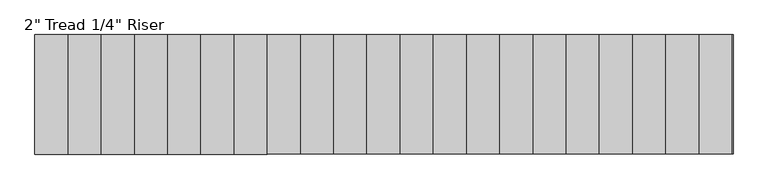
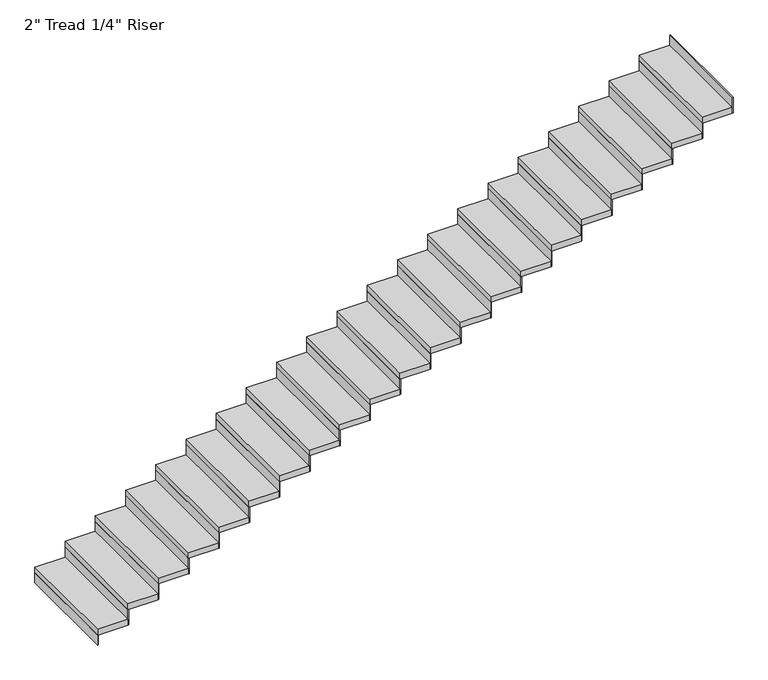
"""IFC4 building model written with IfcOpenShell, lengths in millimetres: stair flight geometry."""

from ifc_helpers import new_model, si_unit, frame, origin, origin_with_axes, place, context, project, spatial, polyline, outline, extrude, source, transform, mapped, element, save


def stair_flight_2dc6aed0(model_context):
    return source(origin(), model_context, "Body", "SweptSolid", [
        extrude(outline(polyline([(-14491.9069957, -68793.8034511), (-14498.2569957, -68793.8034511), (-14498.2569957, -67879.4034511), (-14491.9069957, -67879.4034511), (-14491.9069957, -68793.8034511)])), origin_with_axes(), (0.0, 0.0, 1.0), 87.7454545),
        extrude(outline(polyline([(-14244.2569957, -67879.4034511), (-14244.2569957, -68793.8034511), (-14498.2569957, -68793.8034511), (-14498.2569957, -67879.4034511), (-14244.2569957, -67879.4034511)])), frame((0.0, 0.0, 87.7454545), z_axis=(0.0, 0.0, 1.0), x_axis=(1.0, 0.0, 0.0)), (0.0, 0.0, 1.0), 50.8),
        extrude(outline(polyline([(-14237.9069957, -68793.8034511), (-14244.2569957, -68793.8034511), (-14244.2569957, -67879.4034511), (-14237.9069957, -67879.4034511), (-14237.9069957, -68793.8034511)])), frame((0.0, 0.0, 87.7454545), z_axis=(0.0, 0.0, 1.0), x_axis=(1.0, 0.0, 0.0)), (0.0, 0.0, 1.0), 138.5454545),
        extrude(outline(polyline([(-13990.2569957, -67879.4034511), (-13990.2569957, -68793.8034511), (-14244.2569957, -68793.8034511), (-14244.2569957, -67879.4034511), (-13990.2569957, -67879.4034511)])), frame((0.0, 0.0, 226.2909091), z_axis=(0.0, 0.0, 1.0), x_axis=(1.0, 0.0, 0.0)), (0.0, 0.0, 1.0), 50.8),
        extrude(outline(polyline([(-13983.9069957, -68793.8034511), (-13990.2569957, -68793.8034511), (-13990.2569957, -67879.4034511), (-13983.9069957, -67879.4034511), (-13983.9069957, -68793.8034511)])), frame((0.0, 0.0, 226.2909091), z_axis=(0.0, 0.0, 1.0), x_axis=(1.0, 0.0, 0.0)), (0.0, 0.0, 1.0), 138.5454545),
        extrude(outline(polyline([(-13736.2569957, -67879.4034511), (-13736.2569957, -68793.8034511), (-13990.2569957, -68793.8034511), (-13990.2569957, -67879.4034511), (-13736.2569957, -67879.4034511)])), frame((0.0, 0.0, 364.8363636), z_axis=(0.0, 0.0, 1.0), x_axis=(1.0, 0.0, 0.0)), (0.0, 0.0, 1.0), 50.8),
        extrude(outline(polyline([(-13729.9069957, -68793.8034511), (-13736.2569957, -68793.8034511), (-13736.2569957, -67879.4034511), (-13729.9069957, -67879.4034511), (-13729.9069957, -68793.8034511)])), frame((0.0, 0.0, 364.8363636), z_axis=(0.0, 0.0, 1.0), x_axis=(1.0, 0.0, 0.0)), (0.0, 0.0, 1.0), 138.5454545),
        extrude(outline(polyline([(-13482.2569957, -67879.4034511), (-13482.2569957, -68793.8034511), (-13736.2569957, -68793.8034511), (-13736.2569957, -67879.4034511), (-13482.2569957, -67879.4034511)])), frame((0.0, 0.0, 503.3818182), z_axis=(0.0, 0.0, 1.0), x_axis=(1.0, 0.0, 0.0)), (0.0, 0.0, 1.0), 50.8),
        extrude(outline(polyline([(-13475.9069957, -68793.8034511), (-13482.2569957, -68793.8034511), (-13482.2569957, -67879.4034511), (-13475.9069957, -67879.4034511), (-13475.9069957, -68793.8034511)])), frame((0.0, 0.0, 503.3818182), z_axis=(0.0, 0.0, 1.0), x_axis=(1.0, 0.0, 0.0)), (0.0, 0.0, 1.0), 138.5454545),
        extrude(outline(polyline([(-13228.2569957, -67879.4034511), (-13228.2569957, -68793.8034511), (-13482.2569957, -68793.8034511), (-13482.2569957, -67879.4034511), (-13228.2569957, -67879.4034511)])), frame((0.0, 0.0, 641.9272727), z_axis=(0.0, 0.0, 1.0), x_axis=(1.0, 0.0, 0.0)), (0.0, 0.0, 1.0), 50.8),
        extrude(outline(polyline([(-13221.9069957, -68793.8034511), (-13228.2569957, -68793.8034511), (-13228.2569957, -67879.4034511), (-13221.9069957, -67879.4034511), (-13221.9069957, -68793.8034511)])), frame((0.0, 0.0, 641.9272727), z_axis=(0.0, 0.0, 1.0), x_axis=(1.0, 0.0, 0.0)), (0.0, 0.0, 1.0), 138.5454545),
        extrude(outline(polyline([(-12974.2569957, -67879.4034511), (-12974.2569957, -68793.8034511), (-13228.2569957, -68793.8034511), (-13228.2569957, -67879.4034511), (-12974.2569957, -67879.4034511)])), frame((0.0, 0.0, 780.4727273), z_axis=(0.0, 0.0, 1.0), x_axis=(1.0, 0.0, 0.0)), (0.0, 0.0, 1.0), 50.8),
        extrude(outline(polyline([(-12967.9069957, -68793.8034511), (-12974.2569957, -68793.8034511), (-12974.2569957, -67879.4034511), (-12967.9069957, -67879.4034511), (-12967.9069957, -68793.8034511)])), frame((0.0, 0.0, 780.4727273), z_axis=(0.0, 0.0, 1.0), x_axis=(1.0, 0.0, 0.0)), (0.0, 0.0, 1.0), 138.5454545),
        extrude(outline(polyline([(-12720.2569957, -67879.4034511), (-12720.2569957, -68793.8034511), (-12974.2569957, -68793.8034511), (-12974.2569957, -67879.4034511), (-12720.2569957, -67879.4034511)])), frame((0.0, 0.0, 919.0181818), z_axis=(0.0, 0.0, 1.0), x_axis=(1.0, 0.0, 0.0)), (0.0, 0.0, 1.0), 50.8),
        extrude(outline(polyline([(-12713.9069957, -68793.8034511), (-12720.2569957, -68793.8034511), (-12720.2569957, -67879.4034511), (-12713.9069957, -67879.4034511), (-12713.9069957, -68793.8034511)])), frame((0.0, 0.0, 919.0181818), z_axis=(0.0, 0.0, 1.0), x_axis=(1.0, 0.0, 0.0)), (0.0, 0.0, 1.0), 138.5454545),
        extrude(outline(polyline([(-12466.2569957, -67879.4034511), (-12466.2569957, -68793.8034511), (-12720.2569957, -68793.8034511), (-12720.2569957, -67879.4034511), (-12466.2569957, -67879.4034511)])), frame((0.0, 0.0, 1057.5636364), z_axis=(0.0, 0.0, 1.0), x_axis=(1.0, 0.0, 0.0)), (0.0, 0.0, 1.0), 50.8),
        extrude(outline(polyline([(-12459.9069957, -68793.8034511), (-12466.2569957, -68793.8034511), (-12466.2569957, -67879.4034511), (-12459.9069957, -67879.4034511), (-12459.9069957, -68793.8034511)])), frame((0.0, 0.0, 1057.5636364), z_axis=(0.0, 0.0, 1.0), x_axis=(1.0, 0.0, 0.0)), (0.0, 0.0, 1.0), 138.5454545),
        extrude(outline(polyline([(-12212.2569957, -67879.4034511), (-12212.2569957, -68793.8034511), (-12466.2569957, -68793.8034511), (-12466.2569957, -67879.4034511), (-12212.2569957, -67879.4034511)])), frame((0.0, 0.0, 1196.1090909), z_axis=(0.0, 0.0, 1.0), x_axis=(1.0, 0.0, 0.0)), (0.0, 0.0, 1.0), 50.8),
        extrude(outline(polyline([(-12205.9069957, -68793.8034511), (-12212.2569957, -68793.8034511), (-12212.2569957, -67879.4034511), (-12205.9069957, -67879.4034511), (-12205.9069957, -68793.8034511)])), frame((0.0, 0.0, 1196.1090909), z_axis=(0.0, 0.0, 1.0), x_axis=(1.0, 0.0, 0.0)), (0.0, 0.0, 1.0), 138.5454545),
        extrude(outline(polyline([(-11958.2569957, -67879.4034511), (-11958.2569957, -68793.8034511), (-12212.2569957, -68793.8034511), (-12212.2569957, -67879.4034511), (-11958.2569957, -67879.4034511)])), frame((0.0, 0.0, 1334.6545455), z_axis=(0.0, 0.0, 1.0), x_axis=(1.0, 0.0, 0.0)), (0.0, 0.0, 1.0), 50.8),
        extrude(outline(polyline([(-11951.9069957, -68793.8034511), (-11958.2569957, -68793.8034511), (-11958.2569957, -67879.4034511), (-11951.9069957, -67879.4034511), (-11951.9069957, -68793.8034511)])), frame((0.0, 0.0, 1334.6545455), z_axis=(0.0, 0.0, 1.0), x_axis=(1.0, 0.0, 0.0)), (0.0, 0.0, 1.0), 138.5454545),
        extrude(outline(polyline([(-11704.2569957, -67879.4034511), (-11704.2569957, -68793.8034511), (-11958.2569957, -68793.8034511), (-11958.2569957, -67879.4034511), (-11704.2569957, -67879.4034511)])), frame((0.0, 0.0, 1473.2), z_axis=(0.0, 0.0, 1.0), x_axis=(1.0, 0.0, 0.0)), (0.0, 0.0, 1.0), 50.8),
        extrude(outline(polyline([(-11697.9069957, -68793.8034511), (-11704.2569957, -68793.8034511), (-11704.2569957, -67879.4034511), (-11697.9069957, -67879.4034511), (-11697.9069957, -68793.8034511)])), frame((0.0, 0.0, 1473.2), z_axis=(0.0, 0.0, 1.0), x_axis=(1.0, 0.0, 0.0)), (0.0, 0.0, 1.0), 138.5454545),
        extrude(outline(polyline([(-11450.2569957, -67879.4034511), (-11450.2569957, -68793.8034511), (-11704.2569957, -68793.8034511), (-11704.2569957, -67879.4034511), (-11450.2569957, -67879.4034511)])), frame((0.0, 0.0, 1611.7454545), z_axis=(0.0, 0.0, 1.0), x_axis=(1.0, 0.0, 0.0)), (0.0, 0.0, 1.0), 50.8),
        extrude(outline(polyline([(-11443.9069957, -68793.8034511), (-11450.2569957, -68793.8034511), (-11450.2569957, -67879.4034511), (-11443.9069957, -67879.4034511), (-11443.9069957, -68793.8034511)])), frame((0.0, 0.0, 1611.7454545), z_axis=(0.0, 0.0, 1.0), x_axis=(1.0, 0.0, 0.0)), (0.0, 0.0, 1.0), 138.5454545),
        extrude(outline(polyline([(-11196.2569957, -67879.4034511), (-11196.2569957, -68793.8034511), (-11450.2569957, -68793.8034511), (-11450.2569957, -67879.4034511), (-11196.2569957, -67879.4034511)])), frame((0.0, 0.0, 1750.2909091), z_axis=(0.0, 0.0, 1.0), x_axis=(1.0, 0.0, 0.0)), (0.0, 0.0, 1.0), 50.8),
        extrude(outline(polyline([(-11189.9069957, -68793.8034511), (-11196.2569957, -68793.8034511), (-11196.2569957, -67879.4034511), (-11189.9069957, -67879.4034511), (-11189.9069957, -68793.8034511)])), frame((0.0, 0.0, 1750.2909091), z_axis=(0.0, 0.0, 1.0), x_axis=(1.0, 0.0, 0.0)), (0.0, 0.0, 1.0), 138.5454545),
        extrude(outline(polyline([(-10942.2569957, -67879.4034511), (-10942.2569957, -68793.8034511), (-11196.2569957, -68793.8034511), (-11196.2569957, -67879.4034511), (-10942.2569957, -67879.4034511)])), frame((0.0, 0.0, 1888.8363636), z_axis=(0.0, 0.0, 1.0), x_axis=(1.0, 0.0, 0.0)), (0.0, 0.0, 1.0), 50.8),
        extrude(outline(polyline([(-10935.9069957, -68793.8034511), (-10942.2569957, -68793.8034511), (-10942.2569957, -67879.4034511), (-10935.9069957, -67879.4034511), (-10935.9069957, -68793.8034511)])), frame((0.0, 0.0, 1888.8363636), z_axis=(0.0, 0.0, 1.0), x_axis=(1.0, 0.0, 0.0)), (0.0, 0.0, 1.0), 138.5454545),
        extrude(outline(polyline([(-10688.2569957, -67879.4034511), (-10688.2569957, -68793.8034511), (-10942.2569957, -68793.8034511), (-10942.2569957, -67879.4034511), (-10688.2569957, -67879.4034511)])), frame((0.0, 0.0, 2027.3818182), z_axis=(0.0, 0.0, 1.0), x_axis=(1.0, 0.0, 0.0)), (0.0, 0.0, 1.0), 50.8),
        extrude(outline(polyline([(-10681.9069957, -68793.8034511), (-10688.2569957, -68793.8034511), (-10688.2569957, -67879.4034511), (-10681.9069957, -67879.4034511), (-10681.9069957, -68793.8034511)])), frame((0.0, 0.0, 2027.3818182), z_axis=(0.0, 0.0, 1.0), x_axis=(1.0, 0.0, 0.0)), (0.0, 0.0, 1.0), 138.5454545),
        extrude(outline(polyline([(-10434.2569957, -67879.4034511), (-10434.2569957, -68793.8034511), (-10688.2569957, -68793.8034511), (-10688.2569957, -67879.4034511), (-10434.2569957, -67879.4034511)])), frame((0.0, 0.0, 2165.9272727), z_axis=(0.0, 0.0, 1.0), x_axis=(1.0, 0.0, 0.0)), (0.0, 0.0, 1.0), 50.8),
        extrude(outline(polyline([(-10427.9069957, -68793.8034511), (-10434.2569957, -68793.8034511), (-10434.2569957, -67879.4034511), (-10427.9069957, -67879.4034511), (-10427.9069957, -68793.8034511)])), frame((0.0, 0.0, 2165.9272727), z_axis=(0.0, 0.0, 1.0), x_axis=(1.0, 0.0, 0.0)), (0.0, 0.0, 1.0), 138.5454545),
        extrude(outline(polyline([(-10180.2569957, -67879.4034511), (-10180.2569957, -68793.8034511), (-10434.2569957, -68793.8034511), (-10434.2569957, -67879.4034511), (-10180.2569957, -67879.4034511)])), frame((0.0, 0.0, 2304.4727273), z_axis=(0.0, 0.0, 1.0), x_axis=(1.0, 0.0, 0.0)), (0.0, 0.0, 1.0), 50.8),
        extrude(outline(polyline([(-10173.9069957, -68793.8034511), (-10180.2569957, -68793.8034511), (-10180.2569957, -67879.4034511), (-10173.9069957, -67879.4034511), (-10173.9069957, -68793.8034511)])), frame((0.0, 0.0, 2304.4727273), z_axis=(0.0, 0.0, 1.0), x_axis=(1.0, 0.0, 0.0)), (0.0, 0.0, 1.0), 138.5454545),
        extrude(outline(polyline([(-9926.2569957, -67879.4034511), (-9926.2569957, -68793.8034511), (-10180.2569957, -68793.8034511), (-10180.2569957, -67879.4034511), (-9926.2569957, -67879.4034511)])), frame((0.0, 0.0, 2443.0181818), z_axis=(0.0, 0.0, 1.0), x_axis=(1.0, 0.0, 0.0)), (0.0, 0.0, 1.0), 50.8),
        extrude(outline(polyline([(-9919.9069957, -68793.8034511), (-9926.2569957, -68793.8034511), (-9926.2569957, -67879.4034511), (-9919.9069957, -67879.4034511), (-9919.9069957, -68793.8034511)])), frame((0.0, 0.0, 2443.0181818), z_axis=(0.0, 0.0, 1.0), x_axis=(1.0, 0.0, 0.0)), (0.0, 0.0, 1.0), 138.5454545),
        extrude(outline(polyline([(-9672.2569957, -67879.4034511), (-9672.2569957, -68793.8034511), (-9926.2569957, -68793.8034511), (-9926.2569957, -67879.4034511), (-9672.2569957, -67879.4034511)])), frame((0.0, 0.0, 2581.5636364), z_axis=(0.0, 0.0, 1.0), x_axis=(1.0, 0.0, 0.0)), (0.0, 0.0, 1.0), 50.8),
        extrude(outline(polyline([(-9665.9069957, -68793.8034511), (-9672.2569957, -68793.8034511), (-9672.2569957, -67879.4034511), (-9665.9069957, -67879.4034511), (-9665.9069957, -68793.8034511)])), frame((0.0, 0.0, 2581.5636364), z_axis=(0.0, 0.0, 1.0), x_axis=(1.0, 0.0, 0.0)), (0.0, 0.0, 1.0), 138.5454545),
        extrude(outline(polyline([(-9418.2569957, -67879.4034511), (-9418.2569957, -68793.8034511), (-9672.2569957, -68793.8034511), (-9672.2569957, -67879.4034511), (-9418.2569957, -67879.4034511)])), frame((0.0, 0.0, 2720.1090909), z_axis=(0.0, 0.0, 1.0), x_axis=(1.0, 0.0, 0.0)), (0.0, 0.0, 1.0), 50.8),
        extrude(outline(polyline([(-9411.9069957, -68793.8034511), (-9418.2569957, -68793.8034511), (-9418.2569957, -67879.4034511), (-9411.9069957, -67879.4034511), (-9411.9069957, -68793.8034511)])), frame((0.0, 0.0, 2720.1090909), z_axis=(0.0, 0.0, 1.0), x_axis=(1.0, 0.0, 0.0)), (0.0, 0.0, 1.0), 138.5454545),
        extrude(outline(polyline([(-9157.9069957, -68793.8034511), (-9164.2569957, -68793.8034511), (-9164.2569957, -67879.4034511), (-9157.9069957, -67879.4034511), (-9157.9069957, -68793.8034511)])), frame((0.0, 0.0, 2858.6545455), z_axis=(0.0, 0.0, 1.0), x_axis=(1.0, 0.0, 0.0)), (0.0, 0.0, 1.0), 138.5454545),
        extrude(outline(polyline([(-9164.2569957, -67879.4034511), (-9164.2569957, -68793.8034511), (-9418.2569957, -68793.8034511), (-9418.2569957, -67879.4034511), (-9164.2569957, -67879.4034511)])), frame((0.0, 0.0, 2858.6545455), z_axis=(0.0, 0.0, 1.0), x_axis=(1.0, 0.0, 0.0)), (0.0, 0.0, 1.0), 50.8),
    ])


if __name__ == "__main__":
    model = new_model("IFC4")
    model_context = context("Model", 3, world=origin())
    ifc_project = project(units=[si_unit("LENGTHUNIT", "METRE", prefix="MILLI")], contexts=[model_context])
    site = spatial("IfcSite", under=ifc_project)
    building = spatial("IfcBuilding", under=site)
    placement = place(None, origin())
    stair_flight_shape = stair_flight_2dc6aed0(model_context)
    element("IfcStairFlight", 1, ObjectType="2\" Tread 1/4\" Riser", at=placement, inside=building, context=model_context, shape_type="MappedRepresentation", body=[
        mapped(stair_flight_shape, transform((0.0, 0.0, 0.0), x_axis=(1.0, 0.0, 0.0), y_axis=(0.0, 1.0, 0.0), z_axis=(0.0, 0.0, 1.0))),
    ])
    save(model, "model.ifc")
